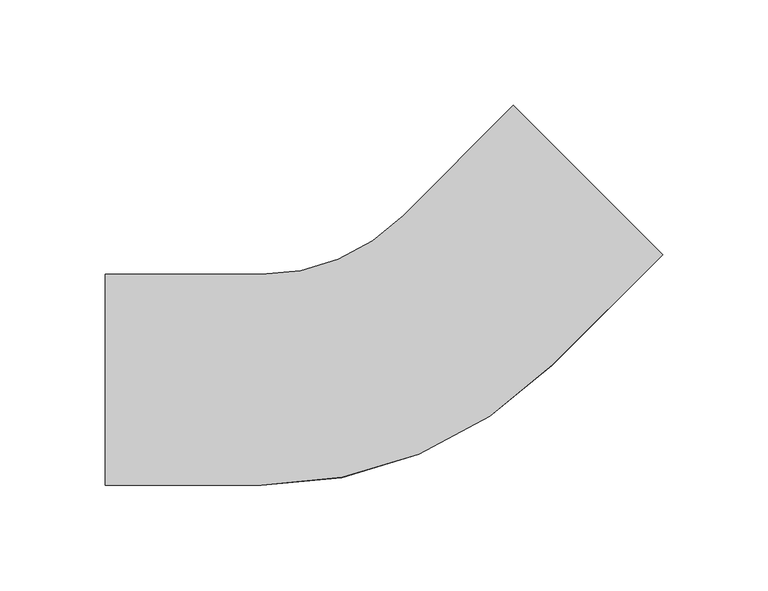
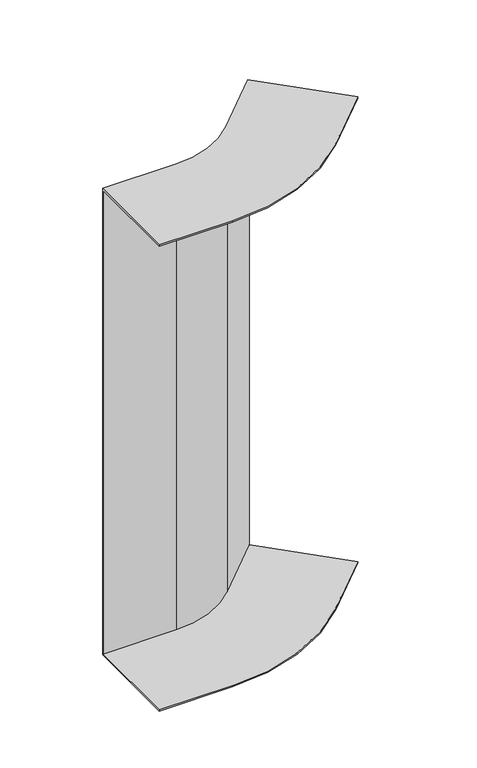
"""IFC4 building model written with IfcOpenShell, lengths in millimetres: cable carrier fitting geometry, BAKS_KK_Vertical bend INTERNAL_LU : LUMNP_H100."""

from ifc_helpers import new_model, si_unit, frame, origin, place, context, project, spatial, polyline, circle_curve, source, transform, mapped, element, save
from ifc_brep_helpers import plane_surface, cylinder_surface, revolved_surface, advanced_brep


def cable_carrier_fitting_32456c58(model_context):
    return source(origin(), model_context, "Body", "AdvancedBrep", [
        advanced_brep(
        [(-134.0609665, -50.0, 250.0), (-134.0609665, 50.0, 250.0), (-134.0609665, 50.0, -250.0), (-134.0609665, -50.0, -250.0), (-134.0609665, -50.0, -248.5), (-134.0609665, 48.5, -248.5), (-134.0609665, 48.5, 248.5), (-134.0609665, -50.0, 248.5), (130.1507576, 59.4400795, 250.0), (130.1507576, 59.4400795, 248.5), (60.5007396, 129.0900974, 248.5), (60.5007396, 129.0900974, -248.5), (130.1507576, 59.4400795, -248.5), (130.1507576, 59.4400795, -250.0), (59.4400795, 130.1507576, -250.0), (59.4400795, 130.1507576, 250.0), (-60.0609665, -50.0, 250.0), (77.8248558, 7.1141777, 250.0), (7.1141777, 77.8248558, 250.0), (-60.0609665, 50.0, 250.0), (-60.0609665, 50.0, -250.0), (7.1141777, 77.8248558, -250.0), (77.8248558, 7.1141777, -250.0), (-60.0609665, -50.0, -250.0), (-60.0609665, -50.0, -248.5), (77.8248558, 7.1141777, -248.5), (8.1748378, 76.7641956, -248.5), (-60.0609665, 48.5, -248.5), (-60.0609665, 48.5, 248.5), (8.1748378, 76.7641956, 248.5), (77.8248558, 7.1141777, 248.5), (-60.0609665, -50.0, 248.5)],
        [
            (0, 1),
            (1, 2),
            (2, 3),
            (3, 4),
            (4, 5),
            (5, 6),
            (6, 7),
            (7, 0),
            (8, 9),
            (9, 10),
            (10, 11),
            (11, 12),
            (12, 13),
            (13, 14),
            (14, 15),
            (15, 8),
            (0, 16),
            (16, 17, circle_curve(frame((-60.0609665, 145.0, 250.0), z_axis=(0.0, 0.0, 1.0), x_axis=(0.0, -1.0, 0.0)), 195.0)),
            (17, 8),
            (15, 18),
            (18, 19, circle_curve(frame((-60.0609665, 145.0, 250.0), z_axis=(0.0, 0.0, -1.0), x_axis=(0.0, -1.0, 0.0)), 95.0)),
            (19, 1),
            (19, 20),
            (20, 2),
            (20, 21, circle_curve(frame((-60.0609665, 145.0, -250.0), z_axis=(0.0, 0.0, 1.0), x_axis=(0.0, -1.0, 0.0)), 95.0)),
            (21, 14),
            (13, 22),
            (22, 23, circle_curve(frame((-60.0609665, 145.0, -250.0), z_axis=(0.0, 0.0, -1.0), x_axis=(0.0, -1.0, 0.0)), 195.0)),
            (23, 3),
            (23, 24),
            (24, 4),
            (24, 25, circle_curve(frame((-60.0609665, 145.0, -248.5), z_axis=(0.0, 0.0, 1.0), x_axis=(0.0, -1.0, 0.0)), 195.0)),
            (25, 12),
            (11, 26),
            (26, 27, circle_curve(frame((-60.0609665, 145.0, -248.5), z_axis=(0.0, 0.0, -1.0), x_axis=(0.0, -1.0, 0.0)), 96.5)),
            (27, 5),
            (27, 28),
            (28, 6),
            (28, 29, circle_curve(frame((-60.0609665, 145.0, 248.5), z_axis=(0.0, 0.0, 1.0), x_axis=(0.0, -1.0, 0.0)), 96.5)),
            (29, 10),
            (9, 30),
            (30, 31, circle_curve(frame((-60.0609665, 145.0, 248.5), z_axis=(0.0, 0.0, -1.0), x_axis=(0.0, -1.0, 0.0)), 195.0)),
            (31, 7),
            (31, 16),
            (18, 21),
            (22, 25),
            (26, 29),
            (30, 17),
        ],
        [
            plane_surface(frame((-134.0609665, 0.0, 0.0), z_axis=(-1.0, 0.0, 0.0), x_axis=(0.0, 0.0, 1.0))),
            plane_surface(frame((94.7954185, 94.7954185, 0.0), z_axis=(0.7071067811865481, 0.7071067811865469, 0.0), x_axis=(0.0, 0.0, 1.0))),
            plane_surface(frame((-134.0609665, -50.0, 250.0), z_axis=(0.0, 0.0, 1.0), x_axis=(1.0, 0.0, 0.0))),
            plane_surface(frame((-134.0609665, 50.0, 250.0), z_axis=(0.0, 1.0, 0.0), x_axis=(1.0, 0.0, 0.0))),
            plane_surface(frame((-134.0609665, 50.0, -250.0), z_axis=(0.0, 0.0, -1.0), x_axis=(1.0, 0.0, 0.0))),
            plane_surface(frame((-134.0609665, -50.0, -250.0), z_axis=(0.0, -1.0, 0.0), x_axis=(1.0, 0.0, 0.0))),
            plane_surface(frame((-134.0609665, -50.0, -248.5), z_axis=(0.0, 0.0, 1.0), x_axis=(1.0, 0.0, 0.0))),
            plane_surface(frame((-134.0609665, 48.5, -248.5), z_axis=(0.0, -1.0, 0.0), x_axis=(1.0, 0.0, 0.0))),
            plane_surface(frame((-134.0609665, 48.5, 248.5), z_axis=(0.0, 0.0, -1.0), x_axis=(1.0, 0.0, 0.0))),
            plane_surface(frame((-134.0609665, -50.0, 248.5), z_axis=(0.0, -1.0, 0.0), x_axis=(1.0, 0.0, 0.0))),
            revolved_surface(polyline([(-60.0609665, 50.0, 250.0), (-60.0609665, 50.0, -250.0)]), (-60.0609665, 145.0, 0.0), (0.0, 0.0, 1.0)),
            cylinder_surface(frame((-60.0609665, 145.0, 0.0), z_axis=(0.0, 0.0, 1.0), x_axis=(0.0, -1.0, 0.0)), 195.0),
            cylinder_surface(frame((-60.0609665, 145.0, 0.0), z_axis=(0.0, 0.0, 1.0), x_axis=(0.0, -1.0, 0.0)), 96.5),
            plane_surface(frame((7.1141777, 77.8248558, 250.0), z_axis=(-0.707106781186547, 0.707106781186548, 0.0), x_axis=(0.707106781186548, 0.707106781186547, 0.0))),
            plane_surface(frame((77.8248558, 7.1141777, -250.0), z_axis=(0.7071067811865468, -0.7071067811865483, 0.0), x_axis=(0.7071067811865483, 0.7071067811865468, 0.0))),
            plane_surface(frame((8.1748378, 76.7641956, -248.5), z_axis=(0.7071067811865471, -0.707106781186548, 0.0), x_axis=(0.707106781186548, 0.7071067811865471, 0.0))),
            plane_surface(frame((77.8248558, 7.1141777, 248.5), z_axis=(0.7071067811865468, -0.7071067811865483, 0.0), x_axis=(0.7071067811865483, 0.7071067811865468, 0.0))),
        ],
        [
            (0, [[1, 2, 3, 4, 5, 6, 7, 8]]),
            (1, [[9, 10, 11, 12, 13, 14, 15, 16]]),
            (2, [[-1, 17, 18, 19, -16, 20, 21, 22]]),
            (3, [[-2, -22, 23, 24]]),
            (4, [[-3, -24, 25, 26, -14, 27, 28, 29]]),
            (5, [[-4, -29, 30, 31]]),
            (6, [[-5, -31, 32, 33, -12, 34, 35, 36]]),
            (7, [[-6, -36, 37, 38]]),
            (8, [[-7, -38, 39, 40, -10, 41, 42, 43]]),
            (9, [[-8, -43, 44, -17]]),
            (10, [[-25, -23, -21, 45]]),
            (11, [[-32, -30, -28, 46]]),
            (12, [[-39, -37, -35, 47]]),
            (11, [[-18, -44, -42, 48]]),
            (13, [[-45, -20, -15, -26]]),
            (14, [[-46, -27, -13, -33]]),
            (15, [[-47, -34, -11, -40]]),
            (16, [[-48, -41, -9, -19]]),
        ],
    ),
    ])


if __name__ == "__main__":
    model = new_model("IFC4")
    model_context = context("Model", 3, world=origin())
    ifc_project = project(units=[si_unit("LENGTHUNIT", "METRE", prefix="MILLI")], contexts=[model_context])
    site = spatial("IfcSite", under=ifc_project)
    building = spatial("IfcBuilding", under=site)
    placement = place(None, origin())
    cable_carrier_fitting_shape = cable_carrier_fitting_32456c58(model_context)
    element("IfcCableCarrierFitting", 1, ObjectType="BAKS_KK_Vertical bend INTERNAL_LU : LUMNP_H100", at=placement, inside=building, context=model_context, shape_type="MappedRepresentation", body=[
        mapped(cable_carrier_fitting_shape, transform((0.0, 0.0, 0.0), x_axis=(1.0, 0.0, 0.0), y_axis=(0.0, 1.0, 0.0), z_axis=(0.0, 0.0, 1.0))),
    ])
    save(model, "model.ifc")
